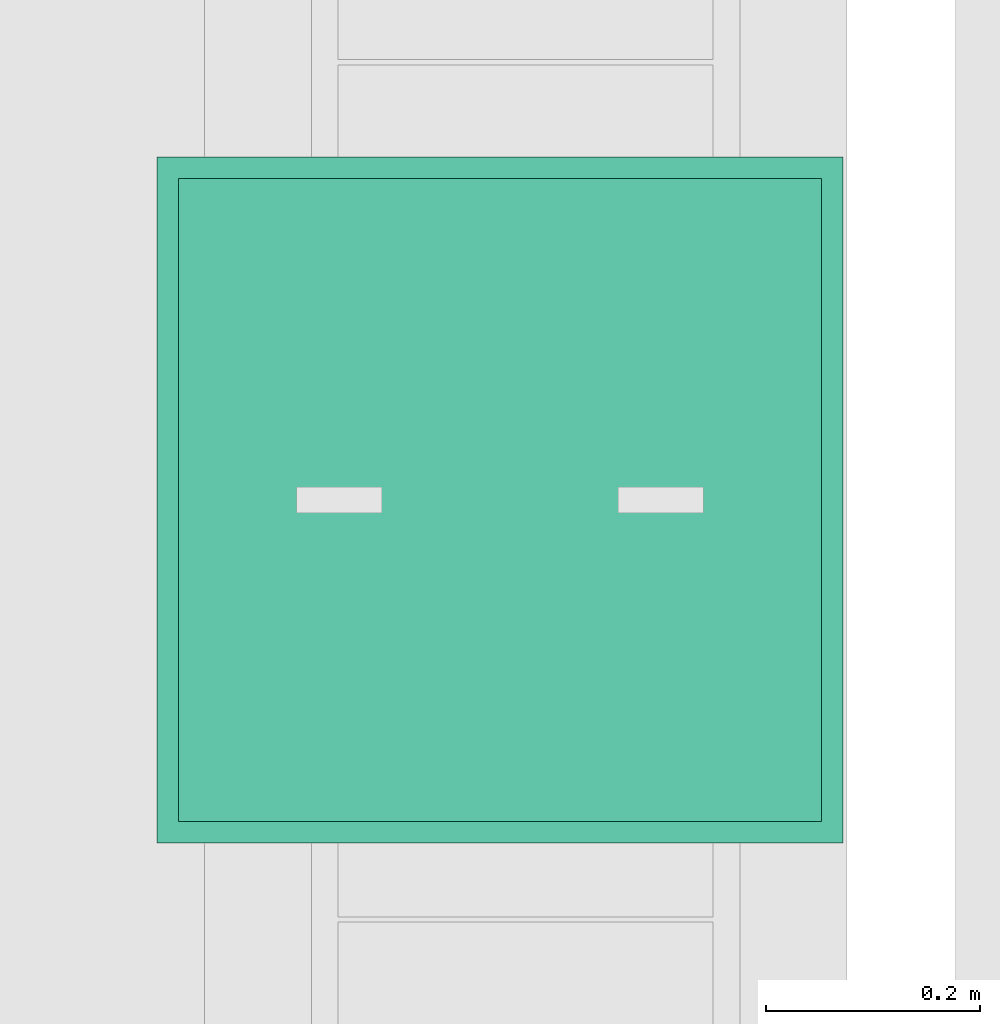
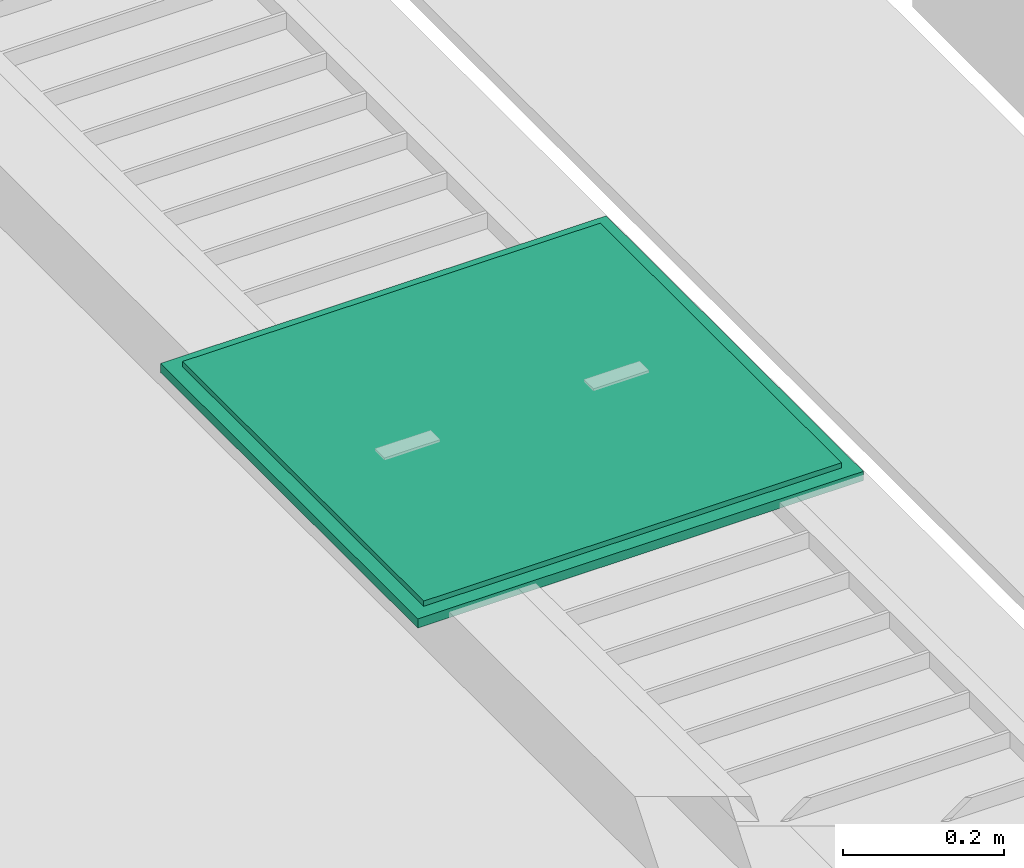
# One storey, part 116 of 151: 2 distribution chamber elements.
"""IFC2X3 building model written with IfcOpenShell, lengths in metres."""

from ifc_helpers import new_model, si_unit, origin, origin_with_axes, place, context, subcontext, project, spatial, faceted_brep, element, save


model = new_model("IFC2X3")

# Units and contexts
model_context = context("Model", 3, precision=1e-05, world=origin_with_axes())
body_context = subcontext(model_context, "Body", "Model", "MODEL_VIEW")
ifc_project = project(units=[si_unit("LENGTHUNIT", "METRE"), si_unit("AREAUNIT", "SQUARE_METRE"), si_unit("VOLUMEUNIT", "CUBIC_METRE"), si_unit("PLANEANGLEUNIT", "RADIAN")], contexts=[model_context])

# Site, building, storey
site_placement = place(None, origin_with_axes())
site = spatial("IfcSite", under=ifc_project, at=site_placement, Name="Predio Los Mangos - Morales, San Martín", CompositionType="ELEMENT")
building_placement = place(site_placement, origin())
building = spatial("IfcBuilding", under=site, at=building_placement, Name="Hogar de Refugio Temporal", CompositionType="ELEMENT")
storey_placement = place(building_placement, origin())
storey = spatial("IfcBuildingStorey", under=building, at=storey_placement, Name="NIVEL 1 (NPT +0.00)", CompositionType="ELEMENT", Elevation=0.0)

# Distribution chamber elements
distribution_chamber_element_1_placement = place(storey_placement, origin())
element("IfcDistributionChamberElement", 1, at=distribution_chamber_element_1_placement, inside=storey, Name="tapa_insp_junta", ObjectType="Tapa de inspección", context=body_context, shape_type="Brep", body=[
    faceted_brep([(70.355, 20.159, 0.082), (70.355, 20.799, 0.082), (70.995, 20.799, 0.082), (70.995, 20.159, 0.082), (70.355, 20.159, 0.096), (70.995, 20.159, 0.096), (70.995, 20.799, 0.096), (70.355, 20.799, 0.096)], [[[0, 1, 2, 3]], [[4, 5, 6, 7]], [[0, 3, 5, 4]], [[3, 2, 6, 5]], [[2, 1, 7, 6]], [[1, 0, 4, 7]]]),
])
distribution_chamber_element_2_placement = place(storey_placement, origin())
element("IfcDistributionChamberElement", 2, at=distribution_chamber_element_2_placement, inside=storey, Name="tapa_inspeccion", ObjectType="Tapa de inspección", context=body_context, shape_type="Brep", body=[
    faceted_brep([(70.375, 20.179, 0.082), (70.375, 20.779, 0.082), (70.975, 20.779, 0.082), (70.975, 20.179, 0.082), (70.375, 20.179, 0.104), (70.975, 20.179, 0.104), (70.975, 20.779, 0.104), (70.375, 20.779, 0.104)], [[[0, 1, 2, 3]], [[4, 5, 6, 7]], [[0, 3, 5, 4]], [[3, 2, 6, 5]], [[2, 1, 7, 6]], [[1, 0, 4, 7]]]),
])

save(model, "model.ifc")
